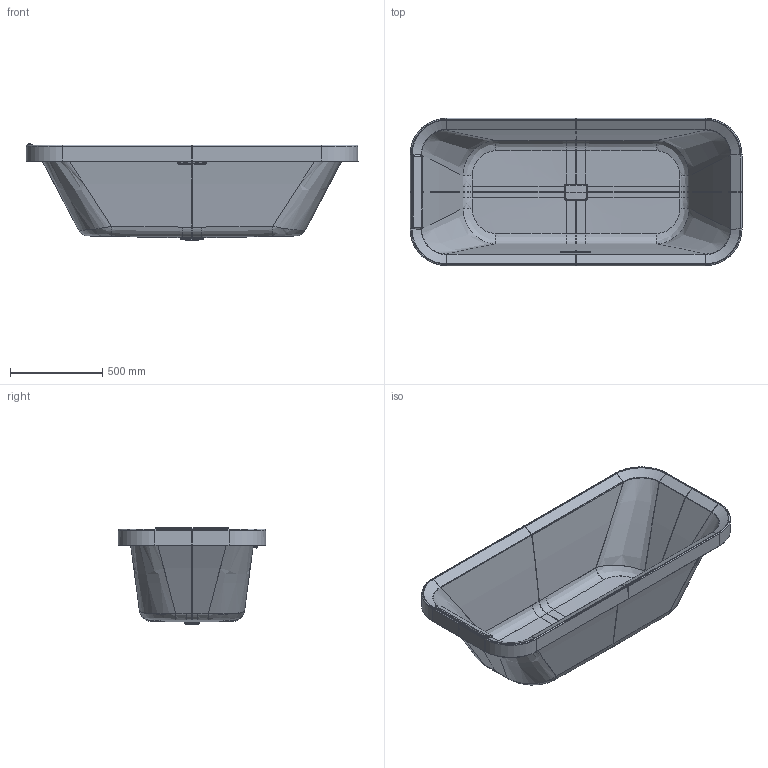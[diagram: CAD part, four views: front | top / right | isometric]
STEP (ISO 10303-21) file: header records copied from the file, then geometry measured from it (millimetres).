
FILE_DESCRIPTION(('STEP AP203'),'2;1');
FILE_NAME('DIV11808C.stp','2017-07-25T10:27:00',(''),(''),'2016.1.120','THINKDESIGN','');
FILE_SCHEMA(('CONFIG_CONTROL_DESIGN'));
Length unit declared in the file: millimetre
Products named in the file (1): top
Bounding box: 1800.03 x 800.03 x 525.6 mm (x, y, z)
Volume: 9809839.7 mm3; surface area: 6431567.7 mm2
Topology: 4 solids, 4 shells, 841 faces, 2188 edges, 1302 vertices
Faces by surface type: bspline 301, plane 284, cylinder 256
Entity records: 39395 total; most frequent: CARTESIAN_POINT 20748, ORIENTED_EDGE 4356, DIRECTION 3188, EDGE_CURVE 2178, VERTEX_POINT 1302, VECTOR 1166, LINE 1166, AXIS2_PLACEMENT_3D 1011
